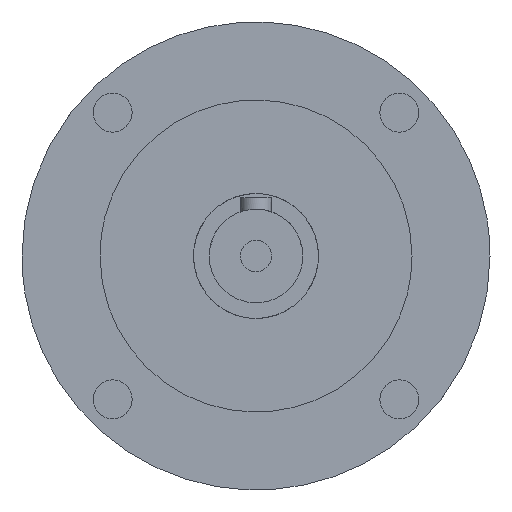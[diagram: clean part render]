
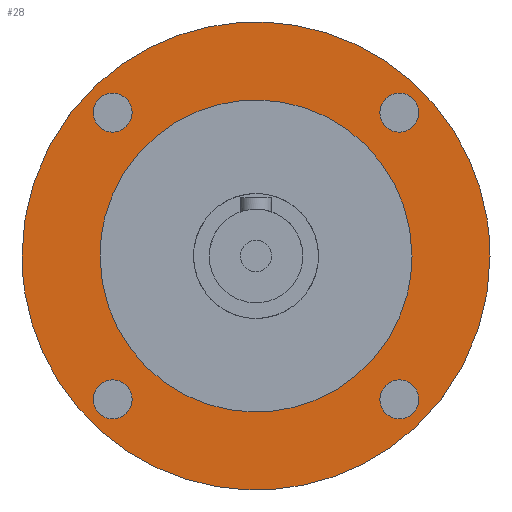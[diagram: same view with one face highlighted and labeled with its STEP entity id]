
A CAD part, front view. The second image highlights one B-rep face of the part: STEP entity #28.
In plain terms, the highlighted planar face has unit normal (0, -1, 0).
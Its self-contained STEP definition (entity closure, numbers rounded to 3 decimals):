
#28=ADVANCED_FACE('',(#90,#72,#73,#74,#75,#76),#759,.T.);
#72=FACE_BOUND('',#148,.T.);
#73=FACE_BOUND('',#149,.T.);
#74=FACE_BOUND('',#150,.T.);
#75=FACE_BOUND('',#151,.T.);
#76=FACE_BOUND('',#152,.T.);
#90=FACE_OUTER_BOUND('',#147,.T.);
#147=EDGE_LOOP('',(#246,#247));
#148=EDGE_LOOP('',(#248,#249));
#149=EDGE_LOOP('',(#250,#251));
#150=EDGE_LOOP('',(#252,#253));
#151=EDGE_LOOP('',(#254,#255));
#152=EDGE_LOOP('',(#256,#257));
#246=ORIENTED_EDGE('',*,*,#500,.F.);
#247=ORIENTED_EDGE('',*,*,#436,.F.);
#248=ORIENTED_EDGE('',*,*,#438,.T.);
#249=ORIENTED_EDGE('',*,*,#488,.T.);
#250=ORIENTED_EDGE('',*,*,#441,.T.);
#251=ORIENTED_EDGE('',*,*,#491,.T.);
#252=ORIENTED_EDGE('',*,*,#444,.T.);
#253=ORIENTED_EDGE('',*,*,#494,.T.);
#254=ORIENTED_EDGE('',*,*,#447,.T.);
#255=ORIENTED_EDGE('',*,*,#497,.T.);
#256=ORIENTED_EDGE('',*,*,#479,.F.);
#257=ORIENTED_EDGE('',*,*,#425,.F.);
#425=EDGE_CURVE('',#649,#680,#563,.T.);
#436=EDGE_CURVE('',#656,#694,#574,.T.);
#438=EDGE_CURVE('',#658,#686,#576,.T.);
#441=EDGE_CURVE('',#660,#688,#579,.T.);
#444=EDGE_CURVE('',#662,#690,#582,.T.);
#447=EDGE_CURVE('',#664,#692,#585,.T.);
#479=EDGE_CURVE('',#680,#649,#605,.T.);
#488=EDGE_CURVE('',#686,#658,#614,.T.);
#491=EDGE_CURVE('',#688,#660,#617,.T.);
#494=EDGE_CURVE('',#690,#662,#620,.T.);
#497=EDGE_CURVE('',#692,#664,#623,.T.);
#500=EDGE_CURVE('',#694,#656,#626,.T.);
#563=(
BOUNDED_CURVE()
B_SPLINE_CURVE(2,(#1839,#1840,#1841,#1842,#1843),.UNSPECIFIED.,.F.,.F.)
B_SPLINE_CURVE_WITH_KNOTS((3,2,3),(0.,31.416,62.832),
 .UNSPECIFIED.)
CURVE()
GEOMETRIC_REPRESENTATION_ITEM()
RATIONAL_B_SPLINE_CURVE((1.,0.707,1.,0.707,1.))
REPRESENTATION_ITEM('')
);
#574=(
BOUNDED_CURVE()
B_SPLINE_CURVE(2,(#1882,#1883,#1884,#1885,#1886),.UNSPECIFIED.,.F.,.F.)
B_SPLINE_CURVE_WITH_KNOTS((3,2,3),(-188.496,-141.372,
-94.248),.UNSPECIFIED.)
CURVE()
GEOMETRIC_REPRESENTATION_ITEM()
RATIONAL_B_SPLINE_CURVE((1.,0.707,1.,0.707,1.))
REPRESENTATION_ITEM('')
);
#576=(
BOUNDED_CURVE()
B_SPLINE_CURVE(2,(#1889,#1890,#1891,#1892,#1893),.UNSPECIFIED.,.F.,.F.)
B_SPLINE_CURVE_WITH_KNOTS((3,2,3),(-15.708,-11.781,-7.854),
 .UNSPECIFIED.)
CURVE()
GEOMETRIC_REPRESENTATION_ITEM()
RATIONAL_B_SPLINE_CURVE((1.,0.707,1.,0.707,1.))
REPRESENTATION_ITEM('')
);
#579=(
BOUNDED_CURVE()
B_SPLINE_CURVE(2,(#1901,#1902,#1903,#1904,#1905),.UNSPECIFIED.,.F.,.F.)
B_SPLINE_CURVE_WITH_KNOTS((3,2,3),(-15.708,-11.781,-7.854),
 .UNSPECIFIED.)
CURVE()
GEOMETRIC_REPRESENTATION_ITEM()
RATIONAL_B_SPLINE_CURVE((1.,0.707,1.,0.707,1.))
REPRESENTATION_ITEM('')
);
#582=(
BOUNDED_CURVE()
B_SPLINE_CURVE(2,(#1913,#1914,#1915,#1916,#1917),.UNSPECIFIED.,.F.,.F.)
B_SPLINE_CURVE_WITH_KNOTS((3,2,3),(-15.708,-11.781,-7.854),
 .UNSPECIFIED.)
CURVE()
GEOMETRIC_REPRESENTATION_ITEM()
RATIONAL_B_SPLINE_CURVE((1.,0.707,1.,0.707,1.))
REPRESENTATION_ITEM('')
);
#585=(
BOUNDED_CURVE()
B_SPLINE_CURVE(2,(#1925,#1926,#1927,#1928,#1929),.UNSPECIFIED.,.F.,.F.)
B_SPLINE_CURVE_WITH_KNOTS((3,2,3),(-15.708,-11.781,-7.854),
 .UNSPECIFIED.)
CURVE()
GEOMETRIC_REPRESENTATION_ITEM()
RATIONAL_B_SPLINE_CURVE((1.,0.707,1.,0.707,1.))
REPRESENTATION_ITEM('')
);
#605=(
BOUNDED_CURVE()
B_SPLINE_CURVE(2,(#2096,#2097,#2098,#2099,#2100),.UNSPECIFIED.,.F.,.F.)
B_SPLINE_CURVE_WITH_KNOTS((3,2,3),(62.832,94.248,125.664),
 .UNSPECIFIED.)
CURVE()
GEOMETRIC_REPRESENTATION_ITEM()
RATIONAL_B_SPLINE_CURVE((1.,0.707,1.,0.707,1.))
REPRESENTATION_ITEM('')
);
#614=(
BOUNDED_CURVE()
B_SPLINE_CURVE(2,(#2132,#2133,#2134,#2135,#2136),.UNSPECIFIED.,.F.,.F.)
B_SPLINE_CURVE_WITH_KNOTS((3,2,3),(-7.854,-3.927,
0.),.UNSPECIFIED.)
CURVE()
GEOMETRIC_REPRESENTATION_ITEM()
RATIONAL_B_SPLINE_CURVE((1.,0.707,1.,0.707,1.))
REPRESENTATION_ITEM('')
);
#617=(
BOUNDED_CURVE()
B_SPLINE_CURVE(2,(#2144,#2145,#2146,#2147,#2148),.UNSPECIFIED.,.F.,.F.)
B_SPLINE_CURVE_WITH_KNOTS((3,2,3),(-7.854,-3.927,
0.),.UNSPECIFIED.)
CURVE()
GEOMETRIC_REPRESENTATION_ITEM()
RATIONAL_B_SPLINE_CURVE((1.,0.707,1.,0.707,1.))
REPRESENTATION_ITEM('')
);
#620=(
BOUNDED_CURVE()
B_SPLINE_CURVE(2,(#2156,#2157,#2158,#2159,#2160),.UNSPECIFIED.,.F.,.F.)
B_SPLINE_CURVE_WITH_KNOTS((3,2,3),(-7.854,-3.927,
0.),.UNSPECIFIED.)
CURVE()
GEOMETRIC_REPRESENTATION_ITEM()
RATIONAL_B_SPLINE_CURVE((1.,0.707,1.,0.707,1.))
REPRESENTATION_ITEM('')
);
#623=(
BOUNDED_CURVE()
B_SPLINE_CURVE(2,(#2168,#2169,#2170,#2171,#2172),.UNSPECIFIED.,.F.,.F.)
B_SPLINE_CURVE_WITH_KNOTS((3,2,3),(-7.854,-3.927,
0.),.UNSPECIFIED.)
CURVE()
GEOMETRIC_REPRESENTATION_ITEM()
RATIONAL_B_SPLINE_CURVE((1.,0.707,1.,0.707,1.))
REPRESENTATION_ITEM('')
);
#626=(
BOUNDED_CURVE()
B_SPLINE_CURVE(2,(#2180,#2181,#2182,#2183,#2184),.UNSPECIFIED.,.F.,.F.)
B_SPLINE_CURVE_WITH_KNOTS((3,2,3),(-94.248,-47.124,
0.),.UNSPECIFIED.)
CURVE()
GEOMETRIC_REPRESENTATION_ITEM()
RATIONAL_B_SPLINE_CURVE((1.,0.707,1.,0.707,1.))
REPRESENTATION_ITEM('')
);
#649=VERTEX_POINT('',#1711);
#656=VERTEX_POINT('',#1718);
#658=VERTEX_POINT('',#1720);
#660=VERTEX_POINT('',#1722);
#662=VERTEX_POINT('',#1724);
#664=VERTEX_POINT('',#1726);
#680=VERTEX_POINT('',#1742);
#686=VERTEX_POINT('',#1748);
#688=VERTEX_POINT('',#1750);
#690=VERTEX_POINT('',#1752);
#692=VERTEX_POINT('',#1754);
#694=VERTEX_POINT('',#1756);
#759=PLANE('',#788);
#788=AXIS2_PLACEMENT_3D('',#872,#800,$);
#800=DIRECTION('',(0.,-1.,0.));
#872=CARTESIAN_POINT('',(-30.6,0.,30.6));
#1711=CARTESIAN_POINT('',(20.,0.,0.));
#1718=CARTESIAN_POINT('',(30.,0.,0.));
#1720=CARTESIAN_POINT('',(-20.885,0.,-18.385));
#1722=CARTESIAN_POINT('',(20.885,0.,-18.385));
#1724=CARTESIAN_POINT('',(20.885,0.,18.385));
#1726=CARTESIAN_POINT('',(-20.885,0.,18.385));
#1742=CARTESIAN_POINT('',(-20.,0.,0.));
#1748=CARTESIAN_POINT('',(-15.885,0.,-18.385));
#1750=CARTESIAN_POINT('',(15.885,0.,-18.385));
#1752=CARTESIAN_POINT('',(15.885,0.,18.385));
#1754=CARTESIAN_POINT('',(-15.885,0.,18.385));
#1756=CARTESIAN_POINT('',(-30.,0.,0.));
#1839=CARTESIAN_POINT('',(20.,0.,0.));
#1840=CARTESIAN_POINT('',(20.,0.,20.));
#1841=CARTESIAN_POINT('',(0.,0.,20.));
#1842=CARTESIAN_POINT('',(-20.,0.,20.));
#1843=CARTESIAN_POINT('',(-20.,0.,0.));
#1882=CARTESIAN_POINT('',(30.,0.,0.));
#1883=CARTESIAN_POINT('',(30.,0.,-30.));
#1884=CARTESIAN_POINT('',(0.,0.,-30.));
#1885=CARTESIAN_POINT('',(-30.,0.,-30.));
#1886=CARTESIAN_POINT('',(-30.,0.,0.));
#1889=CARTESIAN_POINT('',(-20.885,0.,-18.385));
#1890=CARTESIAN_POINT('',(-20.885,0.,-15.885));
#1891=CARTESIAN_POINT('',(-18.385,0.,-15.885));
#1892=CARTESIAN_POINT('',(-15.885,0.,-15.885));
#1893=CARTESIAN_POINT('',(-15.885,0.,-18.385));
#1901=CARTESIAN_POINT('',(20.885,0.,-18.385));
#1902=CARTESIAN_POINT('',(20.885,0.,-20.885));
#1903=CARTESIAN_POINT('',(18.385,0.,-20.885));
#1904=CARTESIAN_POINT('',(15.885,0.,-20.885));
#1905=CARTESIAN_POINT('',(15.885,0.,-18.385));
#1913=CARTESIAN_POINT('',(20.885,0.,18.385));
#1914=CARTESIAN_POINT('',(20.885,0.,15.885));
#1915=CARTESIAN_POINT('',(18.385,0.,15.885));
#1916=CARTESIAN_POINT('',(15.885,0.,15.885));
#1917=CARTESIAN_POINT('',(15.885,0.,18.385));
#1925=CARTESIAN_POINT('',(-20.885,0.,18.385));
#1926=CARTESIAN_POINT('',(-20.885,0.,20.885));
#1927=CARTESIAN_POINT('',(-18.385,0.,20.885));
#1928=CARTESIAN_POINT('',(-15.885,0.,20.885));
#1929=CARTESIAN_POINT('',(-15.885,0.,18.385));
#2096=CARTESIAN_POINT('',(-20.,0.,0.));
#2097=CARTESIAN_POINT('',(-20.,0.,-20.));
#2098=CARTESIAN_POINT('',(0.,0.,-20.));
#2099=CARTESIAN_POINT('',(20.,0.,-20.));
#2100=CARTESIAN_POINT('',(20.,0.,0.));
#2132=CARTESIAN_POINT('',(-15.885,0.,-18.385));
#2133=CARTESIAN_POINT('',(-15.885,0.,-20.885));
#2134=CARTESIAN_POINT('',(-18.385,0.,-20.885));
#2135=CARTESIAN_POINT('',(-20.885,0.,-20.885));
#2136=CARTESIAN_POINT('',(-20.885,0.,-18.385));
#2144=CARTESIAN_POINT('',(15.885,0.,-18.385));
#2145=CARTESIAN_POINT('',(15.885,0.,-15.885));
#2146=CARTESIAN_POINT('',(18.385,0.,-15.885));
#2147=CARTESIAN_POINT('',(20.885,0.,-15.885));
#2148=CARTESIAN_POINT('',(20.885,0.,-18.385));
#2156=CARTESIAN_POINT('',(15.885,0.,18.385));
#2157=CARTESIAN_POINT('',(15.885,0.,20.885));
#2158=CARTESIAN_POINT('',(18.385,0.,20.885));
#2159=CARTESIAN_POINT('',(20.885,0.,20.885));
#2160=CARTESIAN_POINT('',(20.885,0.,18.385));
#2168=CARTESIAN_POINT('',(-15.885,0.,18.385));
#2169=CARTESIAN_POINT('',(-15.885,0.,15.885));
#2170=CARTESIAN_POINT('',(-18.385,0.,15.885));
#2171=CARTESIAN_POINT('',(-20.885,0.,15.885));
#2172=CARTESIAN_POINT('',(-20.885,0.,18.385));
#2180=CARTESIAN_POINT('',(-30.,0.,0.));
#2181=CARTESIAN_POINT('',(-30.,0.,30.));
#2182=CARTESIAN_POINT('',(0.,0.,30.));
#2183=CARTESIAN_POINT('',(30.,0.,30.));
#2184=CARTESIAN_POINT('',(30.,0.,0.));
